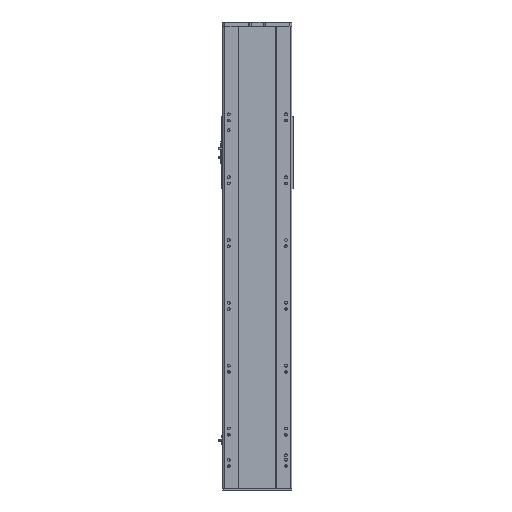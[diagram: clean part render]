
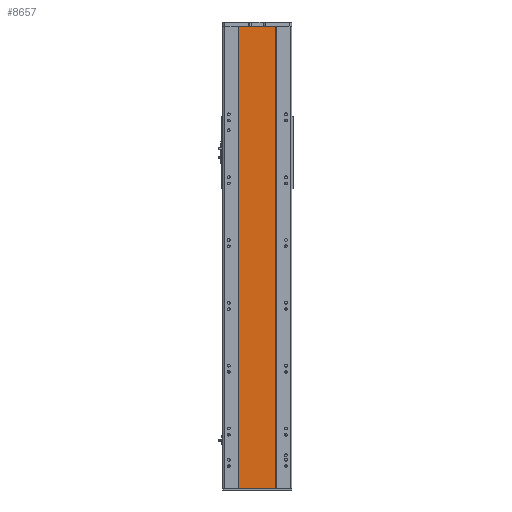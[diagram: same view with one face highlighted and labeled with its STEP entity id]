
A CAD part, front view. The second image highlights one B-rep face of the part: STEP entity #8657.
In plain terms, the highlighted planar face has unit normal (0, -1, 0).
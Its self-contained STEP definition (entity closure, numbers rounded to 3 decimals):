
#816 = FACE_OUTER_BOUND ( 'NONE', #24042, .T. ) ;
#5424 = EDGE_CURVE ( 'NONE', #21835, #23980, #30011, .T. ) ;
#6413 = CARTESIAN_POINT ( 'NONE',  ( -59., 1., 735.5 ) ) ;
#8369 = CARTESIAN_POINT ( 'NONE',  ( 59., 1., 735.5 ) ) ;
#8657 = ADVANCED_FACE ( 'NONE', ( #816 ), #18932, .F. ) ;
#9940 = ORIENTED_EDGE ( 'NONE', *, *, #35293, .F. ) ;
#11544 = VECTOR ( 'NONE', #22617, 1000. ) ;
#12015 = EDGE_CURVE ( 'NONE', #21835, #21530, #15636, .T. ) ;
#15143 = DIRECTION ( 'NONE',  ( 1., 0., 0. ) ) ;
#15636 = LINE ( 'NONE', #6413, #18457 ) ;
#15947 = CARTESIAN_POINT ( 'NONE',  ( -59., 1., 735.5 ) ) ;
#17504 = ORIENTED_EDGE ( 'NONE', *, *, #5424, .T. ) ;
#18457 = VECTOR ( 'NONE', #21082, 1000. ) ;
#18664 = CARTESIAN_POINT ( 'NONE',  ( 59., 1., -735.5 ) ) ;
#18932 = PLANE ( 'NONE',  #27159 ) ;
#20305 = CARTESIAN_POINT ( 'NONE',  ( -59., 1., -735.5 ) ) ;
#21082 = DIRECTION ( 'NONE',  ( 1., 0., 0. ) ) ;
#21530 = VERTEX_POINT ( 'NONE', #36472 ) ;
#21835 = VERTEX_POINT ( 'NONE', #37780 ) ;
#22096 = VECTOR ( 'NONE', #35369, 1000. ) ;
#22617 = DIRECTION ( 'NONE',  ( 0., 0., -1. ) ) ;
#23980 = VERTEX_POINT ( 'NONE', #20305 ) ;
#24042 = EDGE_LOOP ( 'NONE', ( #33844, #9940, #36836, #17504 ) ) ;
#24083 = LINE ( 'NONE', #8369, #11544 ) ;
#24839 = DIRECTION ( 'NONE',  ( 0., 1., 0. ) ) ;
#25716 = LINE ( 'NONE', #33188, #31322 ) ;
#27159 = AXIS2_PLACEMENT_3D ( 'NONE', #15947, #24839, #33722 ) ;
#28262 = EDGE_CURVE ( 'NONE', #23980, #29562, #25716, .T. ) ;
#29398 = CARTESIAN_POINT ( 'NONE',  ( -59., 1., 735.5 ) ) ;
#29562 = VERTEX_POINT ( 'NONE', #18664 ) ;
#30011 = LINE ( 'NONE', #29398, #22096 ) ;
#31322 = VECTOR ( 'NONE', #15143, 1000. ) ;
#33188 = CARTESIAN_POINT ( 'NONE',  ( -59., 1., -735.5 ) ) ;
#33722 = DIRECTION ( 'NONE',  ( -1., 0., 0. ) ) ;
#33844 = ORIENTED_EDGE ( 'NONE', *, *, #28262, .T. ) ;
#35293 = EDGE_CURVE ( 'NONE', #21530, #29562, #24083, .T. ) ;
#35369 = DIRECTION ( 'NONE',  ( 0., 0., -1. ) ) ;
#36472 = CARTESIAN_POINT ( 'NONE',  ( 59., 1., 735.5 ) ) ;
#36836 = ORIENTED_EDGE ( 'NONE', *, *, #12015, .F. ) ;
#37780 = CARTESIAN_POINT ( 'NONE',  ( -59., 1., 735.5 ) ) ;
